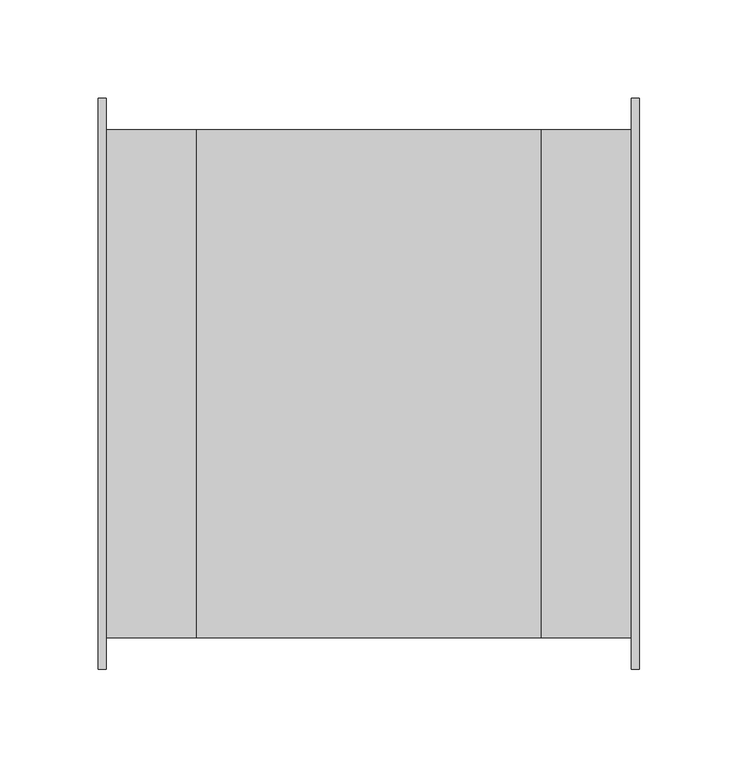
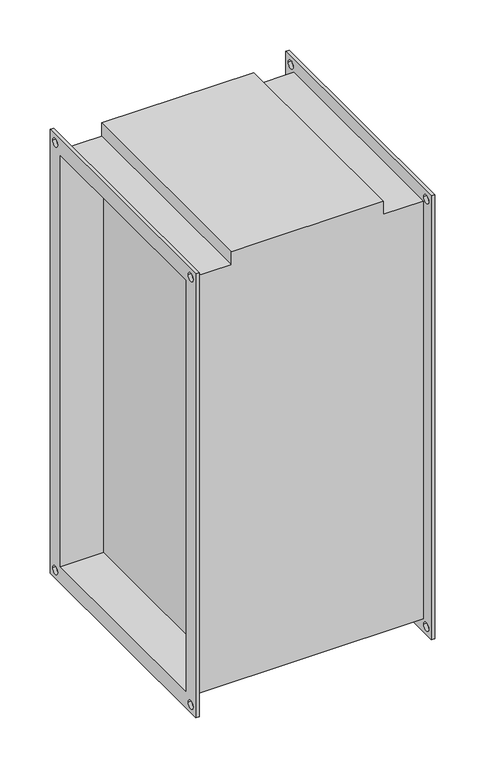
"""IFC4 building model written with IfcOpenShell, lengths in millimetres: proxy geometry, СВ_ВоздухонагревательЭлектрический_КанальныйПрямоугольный_200-1000_SPH-E : SPH-E-500x250/7,5."""

from ifc_helpers import new_model, si_unit, frame, origin, place, context, project, spatial, polyline, circle_curve, source, transform, mapped, element, save
from ifc_brep_helpers import plane_surface, revolved_surface, advanced_brep


def mechanical_equipment_c0174124(model_context):
    return source(origin(), model_context, "Body", "AdvancedBrep", [
        advanced_brep(
        [(-87.5, -129.0, 254.0), (-133.5, -129.0, 254.0), (-133.5, -129.0, -254.0), (133.5, -129.0, -254.0), (133.5, -129.0, 254.0), (87.5, -129.0, 254.0), (87.5, -129.0, 270.0), (-87.5, -129.0, 270.0), (-133.5, 129.0, -254.0), (133.5, 129.0, -254.0), (-133.5, 129.0, 254.0), (-87.5, 129.0, 254.0), (-87.5, 129.0, 270.0), (87.5, 129.0, 270.0), (87.5, 129.0, 254.0), (133.5, 129.0, 254.0), (87.5, 125.0, -250.0), (87.5, 125.0, 250.0), (87.5, -125.0, 250.0), (87.5, -125.0, -250.0), (-87.5, -125.0, 250.0), (-87.5, 125.0, 250.0), (-87.5, 125.0, -250.0), (-87.5, -125.0, -250.0), (-137.5, -145.0, 270.0), (-137.5, 145.0, 270.0), (-137.5, 145.0, -270.0), (-137.5, -145.0, -270.0), (-137.5, -125.0, 250.0), (-137.5, -125.0, -250.0), (-137.5, 125.0, -250.0), (-137.5, 125.0, 250.0), (-137.5, 130.0, 260.0), (-137.5, 140.0, 260.0), (-137.5, -140.0, 260.0), (-137.5, -130.0, 260.0), (-137.5, -140.0, -260.0), (-137.5, -130.0, -260.0), (-137.5, 130.0, -260.0), (-137.5, 140.0, -260.0), (-133.5, -145.0, 270.0), (-133.5, -145.0, -270.0), (-133.5, 145.0, -270.0), (-133.5, 145.0, 270.0), (-133.5, 140.0, 260.0), (-133.5, 130.0, 260.0), (-133.5, -130.0, 260.0), (-133.5, -140.0, 260.0), (-133.5, -130.0, -260.0), (-133.5, -140.0, -260.0), (-133.5, 140.0, -260.0), (-133.5, 130.0, -260.0), (133.5, 145.0, 270.0), (133.5, 145.0, -270.0), (133.5, -145.0, -270.0), (133.5, -145.0, 270.0), (133.5, 130.0, 260.0), (133.5, 140.0, 260.0), (133.5, -140.0, 260.0), (133.5, -130.0, 260.0), (133.5, -140.0, -260.0), (133.5, -130.0, -260.0), (133.5, 130.0, -260.0), (133.5, 140.0, -260.0), (137.5, 145.0, 270.0), (137.5, -145.0, 270.0), (137.5, -145.0, -270.0), (137.5, 145.0, -270.0), (137.5, 125.0, 250.0), (137.5, 125.0, -250.0), (137.5, -125.0, -250.0), (137.5, -125.0, 250.0), (137.5, 140.0, 260.0), (137.5, 130.0, 260.0), (137.5, -130.0, 260.0), (137.5, -140.0, 260.0), (137.5, -130.0, -260.0), (137.5, -140.0, -260.0), (137.5, 140.0, -260.0), (137.5, 130.0, -260.0)],
        [
            (0, 1),
            (1, 2),
            (2, 3),
            (3, 4),
            (4, 5),
            (5, 6),
            (6, 7),
            (7, 0),
            (2, 8),
            (8, 9),
            (9, 3),
            (10, 11),
            (11, 12),
            (12, 13),
            (13, 14),
            (14, 15),
            (15, 9),
            (8, 10),
            (0, 11),
            (10, 1),
            (13, 6),
            (5, 14),
            (16, 17),
            (17, 18),
            (18, 19),
            (19, 16),
            (7, 12),
            (20, 21),
            (21, 22),
            (22, 23),
            (23, 20),
            (4, 15),
            (24, 25),
            (25, 26),
            (26, 27),
            (27, 24),
            (28, 29),
            (29, 30),
            (30, 31),
            (31, 28),
            (32, 33, circle_curve(frame((-137.5, 135.0, 260.0), z_axis=(1.0, 0.0, 0.0), x_axis=(0.0, 1.0, 0.0)), 5.0)),
            (33, 32, circle_curve(frame((-137.5, 135.0, 260.0), z_axis=(1.0, 0.0, 0.0), x_axis=(0.0, 1.0, 0.0)), 5.0)),
            (34, 35, circle_curve(frame((-137.5, -135.0, 260.0), z_axis=(1.0, 0.0, 0.0), x_axis=(0.0, 1.0, 0.0)), 5.0)),
            (35, 34, circle_curve(frame((-137.5, -135.0, 260.0), z_axis=(1.0, 0.0, 0.0), x_axis=(0.0, 1.0, 0.0)), 5.0)),
            (36, 37, circle_curve(frame((-137.5, -135.0, -260.0), z_axis=(1.0, 0.0, 0.0), x_axis=(0.0, 1.0, 0.0)), 5.0)),
            (37, 36, circle_curve(frame((-137.5, -135.0, -260.0), z_axis=(1.0, 0.0, 0.0), x_axis=(0.0, 1.0, 0.0)), 5.0)),
            (38, 39, circle_curve(frame((-137.5, 135.0, -260.0), z_axis=(1.0, 0.0, 0.0), x_axis=(0.0, 1.0, 0.0)), 5.0)),
            (39, 38, circle_curve(frame((-137.5, 135.0, -260.0), z_axis=(1.0, 0.0, 0.0), x_axis=(0.0, 1.0, 0.0)), 5.0)),
            (40, 41),
            (41, 42),
            (42, 43),
            (43, 40),
            (44, 45, circle_curve(frame((-133.5, 135.0, 260.0), z_axis=(-1.0, 0.0, 0.0), x_axis=(0.0, 1.0, 0.0)), 5.0)),
            (45, 44, circle_curve(frame((-133.5, 135.0, 260.0), z_axis=(-1.0, 0.0, 0.0), x_axis=(0.0, 1.0, 0.0)), 5.0)),
            (46, 47, circle_curve(frame((-133.5, -135.0, 260.0), z_axis=(-1.0, 0.0, 0.0), x_axis=(0.0, 1.0, 0.0)), 5.0)),
            (47, 46, circle_curve(frame((-133.5, -135.0, 260.0), z_axis=(-1.0, 0.0, 0.0), x_axis=(0.0, 1.0, 0.0)), 5.0)),
            (48, 49, circle_curve(frame((-133.5, -135.0, -260.0), z_axis=(-1.0, 0.0, 0.0), x_axis=(0.0, 1.0, 0.0)), 5.0)),
            (49, 48, circle_curve(frame((-133.5, -135.0, -260.0), z_axis=(-1.0, 0.0, 0.0), x_axis=(0.0, 1.0, 0.0)), 5.0)),
            (50, 51, circle_curve(frame((-133.5, 135.0, -260.0), z_axis=(-1.0, 0.0, 0.0), x_axis=(0.0, 1.0, 0.0)), 5.0)),
            (51, 50, circle_curve(frame((-133.5, 135.0, -260.0), z_axis=(-1.0, 0.0, 0.0), x_axis=(0.0, 1.0, 0.0)), 5.0)),
            (27, 41),
            (40, 24),
            (26, 42),
            (25, 43),
            (52, 53),
            (53, 54),
            (54, 55),
            (55, 52),
            (56, 57, circle_curve(frame((133.5, 135.0, 260.0), z_axis=(1.0, 0.0, 0.0), x_axis=(0.0, 1.0, 0.0)), 5.0)),
            (57, 56, circle_curve(frame((133.5, 135.0, 260.0), z_axis=(1.0, 0.0, 0.0), x_axis=(0.0, 1.0, 0.0)), 5.0)),
            (58, 59, circle_curve(frame((133.5, -135.0, 260.0), z_axis=(1.0, 0.0, 0.0), x_axis=(0.0, 1.0, 0.0)), 5.0)),
            (59, 58, circle_curve(frame((133.5, -135.0, 260.0), z_axis=(1.0, 0.0, 0.0), x_axis=(0.0, 1.0, 0.0)), 5.0)),
            (60, 61, circle_curve(frame((133.5, -135.0, -260.0), z_axis=(1.0, 0.0, 0.0), x_axis=(0.0, 1.0, 0.0)), 5.0)),
            (61, 60, circle_curve(frame((133.5, -135.0, -260.0), z_axis=(1.0, 0.0, 0.0), x_axis=(0.0, 1.0, 0.0)), 5.0)),
            (62, 63, circle_curve(frame((133.5, 135.0, -260.0), z_axis=(1.0, 0.0, 0.0), x_axis=(0.0, 1.0, 0.0)), 5.0)),
            (63, 62, circle_curve(frame((133.5, 135.0, -260.0), z_axis=(1.0, 0.0, 0.0), x_axis=(0.0, 1.0, 0.0)), 5.0)),
            (64, 65),
            (65, 66),
            (66, 67),
            (67, 64),
            (68, 69),
            (69, 70),
            (70, 71),
            (71, 68),
            (72, 73, circle_curve(frame((137.5, 135.0, 260.0), z_axis=(-1.0, 0.0, 0.0), x_axis=(0.0, 1.0, 0.0)), 5.0)),
            (73, 72, circle_curve(frame((137.5, 135.0, 260.0), z_axis=(-1.0, 0.0, 0.0), x_axis=(0.0, 1.0, 0.0)), 5.0)),
            (74, 75, circle_curve(frame((137.5, -135.0, 260.0), z_axis=(-1.0, 0.0, 0.0), x_axis=(0.0, 1.0, 0.0)), 5.0)),
            (75, 74, circle_curve(frame((137.5, -135.0, 260.0), z_axis=(-1.0, 0.0, 0.0), x_axis=(0.0, 1.0, 0.0)), 5.0)),
            (76, 77, circle_curve(frame((137.5, -135.0, -260.0), z_axis=(-1.0, 0.0, 0.0), x_axis=(0.0, 1.0, 0.0)), 5.0)),
            (77, 76, circle_curve(frame((137.5, -135.0, -260.0), z_axis=(-1.0, 0.0, 0.0), x_axis=(0.0, 1.0, 0.0)), 5.0)),
            (78, 79, circle_curve(frame((137.5, 135.0, -260.0), z_axis=(-1.0, 0.0, 0.0), x_axis=(0.0, 1.0, 0.0)), 5.0)),
            (79, 78, circle_curve(frame((137.5, 135.0, -260.0), z_axis=(-1.0, 0.0, 0.0), x_axis=(0.0, 1.0, 0.0)), 5.0)),
            (55, 65),
            (64, 52),
            (54, 66),
            (53, 67),
            (31, 21),
            (20, 28),
            (30, 22),
            (29, 23),
            (68, 17),
            (16, 69),
            (19, 70),
            (18, 71),
            (32, 45),
            (44, 33),
            (56, 73),
            (72, 57),
            (34, 47),
            (46, 35),
            (58, 75),
            (74, 59),
            (36, 49),
            (48, 37),
            (60, 77),
            (76, 61),
            (38, 51),
            (50, 39),
            (62, 79),
            (78, 63),
        ],
        [
            plane_surface(frame((-87.5, -129.0, 254.0), z_axis=(0.0, -1.0, 0.0), x_axis=(-1.0, 0.0, 0.0))),
            plane_surface(frame((-87.5, -129.0, -254.0), z_axis=(0.0, 0.0, -1.0), x_axis=(-1.0, 0.0, 0.0))),
            plane_surface(frame((-87.5, 129.0, -254.0), z_axis=(0.0, 1.0, 0.0), x_axis=(-1.0, 0.0, 0.0))),
            plane_surface(frame((-87.5, 129.0, 254.0), z_axis=(0.0, 0.0, 1.0), x_axis=(-1.0, 0.0, 0.0))),
            plane_surface(frame((87.5, -129.0, 270.0), z_axis=(1.0, 0.0, 0.0), x_axis=(0.0, 0.0, -1.0))),
            plane_surface(frame((-87.5, -129.0, 270.0), z_axis=(-1.0, 0.0, 0.0), x_axis=(0.0, 0.0, 1.0))),
            plane_surface(frame((87.5, 129.0, 270.0), z_axis=(0.0, 0.0, 1.0), x_axis=(-1.0, 0.0, 0.0))),
            plane_surface(frame((133.5, 129.0, 254.0), z_axis=(0.0, 0.0, 1.0), x_axis=(-1.0, 0.0, 0.0))),
            plane_surface(frame((-137.5, -145.0, 270.0), z_axis=(-1.0, 0.0, 0.0), x_axis=(0.0, 0.0, 1.0))),
            plane_surface(frame((-133.5, -145.0, 270.0), z_axis=(1.0, 0.0, 0.0), x_axis=(0.0, 0.0, -1.0))),
            plane_surface(frame((-133.5, -145.0, 270.0), z_axis=(0.0, -1.0, 0.0), x_axis=(-1.0, 0.0, 0.0))),
            plane_surface(frame((-133.5, -145.0, -270.0), z_axis=(0.0, 0.0, -1.0), x_axis=(-1.0, 0.0, 0.0))),
            plane_surface(frame((-133.5, 145.0, -270.0), z_axis=(0.0, 1.0, 0.0), x_axis=(-1.0, 0.0, 0.0))),
            plane_surface(frame((-133.5, 145.0, 270.0), z_axis=(0.0, 0.0, 1.0), x_axis=(-1.0, 0.0, 0.0))),
            plane_surface(frame((133.5, 125.0, -250.0), z_axis=(-1.0, 0.0, 0.0), x_axis=(0.0, 0.0, 1.0))),
            plane_surface(frame((137.5, 125.0, -250.0), z_axis=(1.0, 0.0, 0.0), x_axis=(0.0, 0.0, -1.0))),
            plane_surface(frame((137.5, 145.0, 270.0), z_axis=(0.0, 0.0, 1.0), x_axis=(-1.0, 0.0, 0.0))),
            plane_surface(frame((137.5, -145.0, 270.0), z_axis=(0.0, -1.0, 0.0), x_axis=(-1.0, 0.0, 0.0))),
            plane_surface(frame((137.5, -145.0, -270.0), z_axis=(0.0, 0.0, -1.0), x_axis=(-1.0, 0.0, 0.0))),
            plane_surface(frame((137.5, 145.0, -270.0), z_axis=(0.0, 1.0, 0.0), x_axis=(-1.0, 0.0, 0.0))),
            plane_surface(frame((-133.5, -125.0, 250.0), z_axis=(0.0, 0.0, -1.0), x_axis=(-1.0, 0.0, 0.0))),
            plane_surface(frame((-133.5, 125.0, 250.0), z_axis=(0.0, -1.0, 0.0), x_axis=(-1.0, 0.0, 0.0))),
            plane_surface(frame((-133.5, 125.0, -250.0), z_axis=(0.0, 0.0, 1.0), x_axis=(-1.0, 0.0, 0.0))),
            plane_surface(frame((-133.5, -125.0, -250.0), z_axis=(0.0, 1.0, 0.0), x_axis=(-1.0, 0.0, 0.0))),
            plane_surface(frame((137.5, 125.0, 250.0), z_axis=(0.0, -1.0, 0.0), x_axis=(-1.0, 0.0, 0.0))),
            plane_surface(frame((137.5, 125.0, -250.0), z_axis=(0.0, 0.0, 1.0), x_axis=(-1.0, 0.0, 0.0))),
            plane_surface(frame((137.5, -125.0, -250.0), z_axis=(0.0, 1.0, 0.0), x_axis=(-1.0, 0.0, 0.0))),
            plane_surface(frame((137.5, -125.0, 250.0), z_axis=(0.0, 0.0, -1.0), x_axis=(-1.0, 0.0, 0.0))),
            revolved_surface(polyline([(-133.5, 140.0, 260.0), (-137.5, 140.0, 260.0)]), (-137.5, 135.0, 260.0), (1.0, 0.0, 0.0)),
            revolved_surface(polyline([(137.5, 140.0, 260.0), (133.5, 140.0, 260.0)]), (-137.5, 135.0, 260.0), (1.0, 0.0, 0.0)),
            revolved_surface(polyline([(-133.5, -130.0, 260.0), (-137.5, -130.0, 260.0)]), (0.0, -135.0, 260.0), (1.0, 0.0, 0.0)),
            revolved_surface(polyline([(137.5, -130.0, 260.0), (133.5, -130.0, 260.0)]), (0.0, -135.0, 260.0), (1.0, 0.0, 0.0)),
            revolved_surface(polyline([(-133.5, -130.0, -260.0), (-137.5, -130.0, -260.0)]), (0.0, -135.0, -260.0), (1.0, 0.0, 0.0)),
            revolved_surface(polyline([(137.5, -130.0, -260.0), (133.5, -130.0, -260.0)]), (0.0, -135.0, -260.0), (1.0, 0.0, 0.0)),
            revolved_surface(polyline([(-133.5, 140.0, -260.0), (-137.5, 140.0, -260.0)]), (0.0, 135.0, -260.0), (1.0, 0.0, 0.0)),
            revolved_surface(polyline([(137.5, 140.0, -260.0), (133.5, 140.0, -260.0)]), (0.0, 135.0, -260.0), (1.0, 0.0, 0.0)),
        ],
        [
            (0, [[1, 2, 3, 4, 5, 6, 7, 8]]),
            (1, [[-3, 9, 10, 11]]),
            (2, [[12, 13, 14, 15, 16, 17, -10, 18]]),
            (3, [[-1, 19, -12, 20]]),
            (4, [[21, -6, 22, -15]]),
            (4, [[23, 24, 25, 26]]),
            (5, [[27, -13, -19, -8]]),
            (5, [[28, 29, 30, 31]]),
            (6, [[-21, -14, -27, -7]]),
            (7, [[-5, 32, -16, -22]]),
            (8, [[33, 34, 35, 36], [37, 38, 39, 40], [41, 42], [43, 44], [45, 46], [47, 48]]),
            (9, [[49, 50, 51, 52], [-2, -20, -18, -9], [53, 54], [55, 56], [57, 58], [59, 60]]),
            (10, [[-36, 61, -49, 62]]),
            (11, [[-35, 63, -50, -61]]),
            (12, [[-34, 64, -51, -63]]),
            (13, [[-33, -62, -52, -64]]),
            (14, [[65, 66, 67, 68], [-4, -11, -17, -32], [69, 70], [71, 72], [73, 74], [75, 76]]),
            (15, [[77, 78, 79, 80], [81, 82, 83, 84], [85, 86], [87, 88], [89, 90], [91, 92]]),
            (16, [[-68, 93, -77, 94]]),
            (17, [[-67, 95, -78, -93]]),
            (18, [[-66, 96, -79, -95]]),
            (19, [[-65, -94, -80, -96]]),
            (20, [[-40, 97, -28, 98]]),
            (21, [[-39, 99, -29, -97]]),
            (22, [[-38, 100, -30, -99]]),
            (23, [[-37, -98, -31, -100]]),
            (24, [[-81, 101, -23, 102]]),
            (25, [[-82, -102, -26, 103]]),
            (26, [[-83, -103, -25, 104]]),
            (27, [[-101, -84, -104, -24]]),
            (28, [[105, -53, 106, -41]]),
            (29, [[107, -85, 108, -69]]),
            (28, [[-105, -42, -106, -54]]),
            (29, [[-107, -70, -108, -86]]),
            (30, [[109, -55, 110, -43]]),
            (31, [[111, -87, 112, -71]]),
            (30, [[-109, -44, -110, -56]]),
            (31, [[-111, -72, -112, -88]]),
            (32, [[113, -57, 114, -45]]),
            (33, [[115, -89, 116, -73]]),
            (32, [[-113, -46, -114, -58]]),
            (33, [[-115, -74, -116, -90]]),
            (34, [[117, -59, 118, -47]]),
            (35, [[119, -91, 120, -75]]),
            (34, [[-117, -48, -118, -60]]),
            (35, [[-119, -76, -120, -92]]),
        ],
    ),
    ])


if __name__ == "__main__":
    model = new_model("IFC4")
    model_context = context("Model", 3, world=origin())
    ifc_project = project(units=[si_unit("LENGTHUNIT", "METRE", prefix="MILLI")], contexts=[model_context])
    site = spatial("IfcSite", under=ifc_project)
    building = spatial("IfcBuilding", under=site)
    placement = place(None, origin())
    mechanical_equipment_shape = mechanical_equipment_c0174124(model_context)
    element("IfcBuildingElementProxy", 1, Name="СВ_ВоздухонагревательЭлектрический_КанальныйПрямоугольный_200-1000_SPH-E : SPH-E-500x250/7,5", ObjectType="СВ_ВоздухонагревательЭлектрический_КанальныйПрямоугольный_200-1000_SPH-E : SPH-E-500x250/7,5", at=placement, inside=building, context=model_context, shape_type="MappedRepresentation", body=[
        mapped(mechanical_equipment_shape, transform((0.0, 0.0, 0.0), x_axis=(1.0, 0.0, 0.0), y_axis=(0.0, 1.0, 0.0), z_axis=(0.0, 0.0, 1.0))),
    ])
    save(model, "model.ifc")
